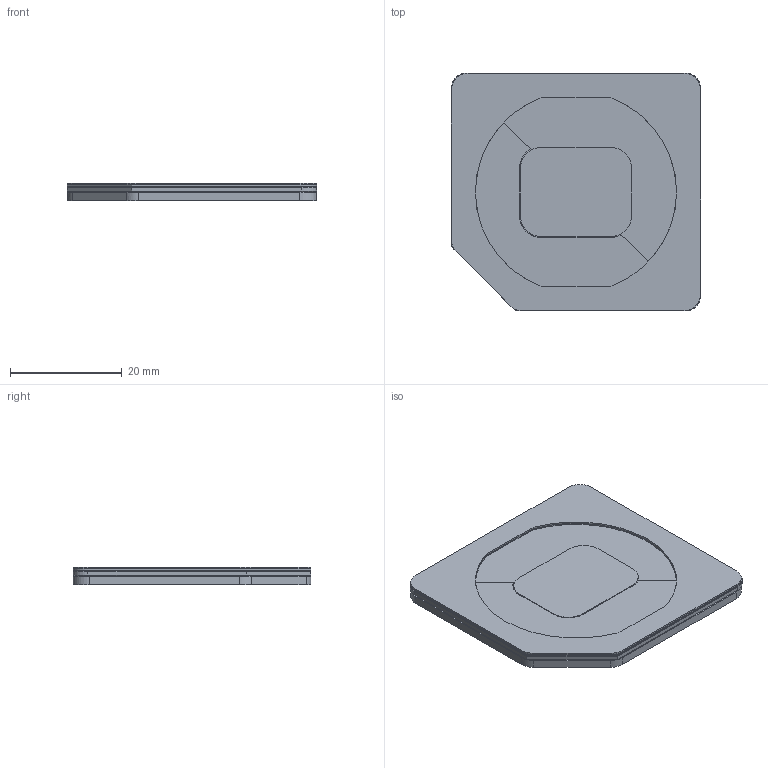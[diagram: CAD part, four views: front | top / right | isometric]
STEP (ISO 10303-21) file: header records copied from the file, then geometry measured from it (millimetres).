
FILE_DESCRIPTION(/* description */ (''),/* implementation_level */ '2;1');
FILE_NAME(/* name */ 'C:\#Vault-WorkDir\Konstruktions-Dokumente\Projekte\VISOR\Visor 2\Katalogzeichnungen\153-13558_LPF VXX S2 (VISOR 2 Polfilter 50%).stp',/* time_stamp */ '2019-01-29T10:22:58+01:00',/* author */ ('SensoPart'),/* organization */ ('SensoPart'),/* preprocessor_version */ 'ST-DEVELOPER v17',/* originating_system */ 'Autodesk Inventor 2018',/* authorisation */ '');
FILE_SCHEMA (('AUTOMOTIVE_DESIGN { 1 0 10303 214 3 1 1 }'));
Length unit declared in the file: millimetre
Products named in the file (1): GH-ENG-0027041
Bounding box: 44.6 x 42.6 x 3.12 mm (x, y, z)
Volume: 3809.1 mm3; surface area: 4497 mm2
Topology: 1 solids, 1 shells, 104 faces, 258 edges, 160 vertices
Faces by surface type: plane 61, cylinder 37, cone 6
Entity records: 3106 total; most frequent: DIRECTION 554, CARTESIAN_POINT 523, ORIENTED_EDGE 516, EDGE_CURVE 258, AXIS2_PLACEMENT_3D 191, LINE 172, VECTOR 172, VERTEX_POINT 160
